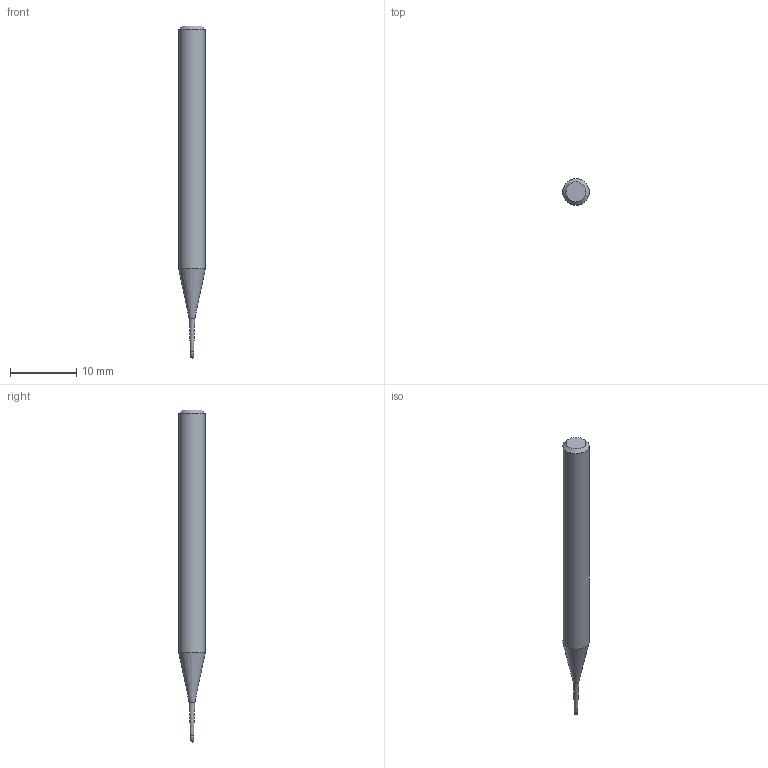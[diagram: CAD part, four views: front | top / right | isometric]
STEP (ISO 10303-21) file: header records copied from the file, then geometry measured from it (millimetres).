
FILE_DESCRIPTION((''),'2;1');
FILE_NAME('C:\Users\nsx150\AppData\Local\Temp\Mastercam 2021\SNAKH10GOD\TEMP.step','2021-10-21T13:31:17',(''),(''),'STEP Write','Mastercam 2021 ... CNC Software, Inc.','');
FILE_SCHEMA(('AUTOMOTIVE_DESIGN'));
Length unit declared in the file: millimetre
Products named in the file (1): None
Bounding box: 4 x 4 x 50 mm (x, y, z)
Volume: 499.4 mm3; surface area: 538.5 mm2
Topology: 2 solids, 2 shells, 10 faces, 16 edges, 9 vertices
Faces by surface type: plane 3, cylinder 3, cone 3, sphere 1
Full cylindrical faces by diameter (mm): 0.485 x1, 0.5 x1, 4 x1
Entity records: 232 total; most frequent: DIRECTION 40, CARTESIAN_POINT 28, AXIS2_PLACEMENT_3D 20, ORIENTED_EDGE 16, EDGE_LOOP 16, STYLED_ITEM 13, ADVANCED_FACE 10, FACE_BOUND 9
